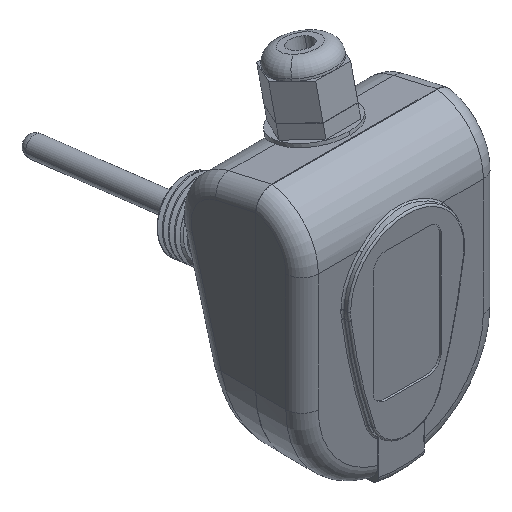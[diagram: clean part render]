
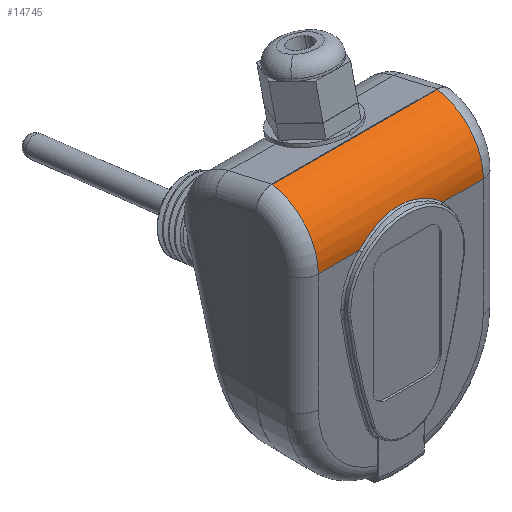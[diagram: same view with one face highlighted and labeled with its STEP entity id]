
A CAD part, isometric view. The second image highlights one B-rep face of the part: STEP entity #14745.
In plain terms, the highlighted cylindrical face has radius 17 mm (diameter 34 mm), a partial arc.
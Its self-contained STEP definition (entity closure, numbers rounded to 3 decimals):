
#89 = CARTESIAN_POINT ( 'NONE',  ( 14.3, 16.784, -17.554 ) ) ;
#446 = ORIENTED_EDGE ( 'NONE', *, *, #18467, .T. ) ;
#483 = CARTESIAN_POINT ( 'NONE',  ( 14.3, 16.784, -43.446 ) ) ;
#563 = CARTESIAN_POINT ( 'NONE',  ( 13.64, 12.092, -26.382 ) ) ;
#582 = EDGE_CURVE ( 'NONE', #5280, #9291, #20996, .T. ) ;
#1070 = DIRECTION ( 'NONE',  ( -1., 0., 0. ) ) ;
#1155 = VERTEX_POINT ( 'NONE', #15102 ) ;
#1531 = LINE ( 'NONE', #18896, #16276 ) ;
#2049 = FACE_OUTER_BOUND ( 'NONE', #21844, .T. ) ;
#2271 = CARTESIAN_POINT ( 'NONE',  ( 14.069, 13.981, -39.629 ) ) ;
#2339 = CARTESIAN_POINT ( 'NONE',  ( 13.768, 12.561, -24.656 ) ) ;
#2836 = DIRECTION ( 'NONE',  ( 0., 0., -1. ) ) ;
#2978 = CARTESIAN_POINT ( 'NONE',  ( 0., 0., -56. ) ) ;
#3662 = VECTOR ( 'NONE', #21067, 1000. ) ;
#3668 = EDGE_CURVE ( 'NONE', #10227, #15513, #9456, .T. ) ;
#4042 = CARTESIAN_POINT ( 'NONE',  ( 13.918, 13.193, -38.022 ) ) ;
#4114 = CARTESIAN_POINT ( 'NONE',  ( 13.916, 13.186, -22.996 ) ) ;
#4219 = LINE ( 'NONE', #8318, #3662 ) ;
#4723 = CIRCLE ( 'NONE', #21361, 17. ) ;
#4782 = CARTESIAN_POINT ( 'NONE',  ( -2.7, 16.784, 0. ) ) ;
#5280 = VERTEX_POINT ( 'NONE', #14515 ) ;
#5846 = CARTESIAN_POINT ( 'NONE',  ( 13.675, 12.21, -35.23 ) ) ;
#5928 = CARTESIAN_POINT ( 'NONE',  ( 14.067, 13.966, -21.398 ) ) ;
#6262 = CARTESIAN_POINT ( 'NONE',  ( -2.7, 16.784, -5. ) ) ;
#6581 = AXIS2_PLACEMENT_3D ( 'NONE', #4782, #2836, #1070 ) ;
#6963 = DIRECTION ( 'NONE',  ( 0., 0., 1. ) ) ;
#7603 = CARTESIAN_POINT ( 'NONE',  ( 13.55, 11.792, -32.887 ) ) ;
#7675 = CARTESIAN_POINT ( 'NONE',  ( 14.241, 15.223, -19.365 ) ) ;
#8023 = DIRECTION ( 'NONE',  ( -1., 0., 0. ) ) ;
#8082 = VECTOR ( 'NONE', #11872, 1000. ) ;
#8163 = DIRECTION ( 'NONE',  ( 0., 0., -1. ) ) ;
#8318 = CARTESIAN_POINT ( 'NONE',  ( 14.3, 16.784, -61. ) ) ;
#8610 = ORIENTED_EDGE ( 'NONE', *, *, #13952, .F. ) ;
#9210 = EDGE_CURVE ( 'NONE', #9291, #21954, #13941, .T. ) ;
#9291 = VERTEX_POINT ( 'NONE', #10309 ) ;
#9311 = CARTESIAN_POINT ( 'NONE',  ( 14.3, 15.955, -42.574 ) ) ;
#9381 = CARTESIAN_POINT ( 'NONE',  ( 13.507, 11.651, -31.1 ) ) ;
#9456 = B_SPLINE_CURVE_WITH_KNOTS ( 'NONE', 3,
 ( #483, #9311, #21841, #12894, #2271, #14695, #4042, #16532, #5846, #18346, #7603, #20194, #9381, #21990, #11177, #563, #12964, #2339, #14783, #4114, #16606, #5928, #18418, #7675, #20270, #9460 ),
 .UNSPECIFIED., .F., .F.,
 ( 4, 2, 2, 2, 2, 2, 2, 2, 2, 2, 2, 2, 4 ),
 ( 0., 0.004, 0.005, 0.007, 0.011, 0.012, 0.014, 0.018, 0.02, 0.021, 0.023, 0.025, 0.028 ),
 .UNSPECIFIED. ) ;
#9460 = CARTESIAN_POINT ( 'NONE',  ( 14.3, 16.784, -17.554 ) ) ;
#10227 = VERTEX_POINT ( 'NONE', #14984 ) ;
#10309 = CARTESIAN_POINT ( 'NONE',  ( 0., 0., -5. ) ) ;
#11177 = CARTESIAN_POINT ( 'NONE',  ( 13.542, 11.76, -28.141 ) ) ;
#11669 = AXIS2_PLACEMENT_3D ( 'NONE', #6262, #18779, #8023 ) ;
#11872 = DIRECTION ( 'NONE',  ( 0., 0., -1. ) ) ;
#12894 = CARTESIAN_POINT ( 'NONE',  ( 14.117, 14.275, -40.143 ) ) ;
#12964 = CARTESIAN_POINT ( 'NONE',  ( 13.68, 12.232, -25.797 ) ) ;
#13941 = LINE ( 'NONE', #20885, #8082 ) ;
#13952 = EDGE_CURVE ( 'NONE', #5280, #15513, #1531, .T. ) ;
#14515 = CARTESIAN_POINT ( 'NONE',  ( 14.3, 16.784, -5. ) ) ;
#14695 = CARTESIAN_POINT ( 'NONE',  ( 13.97, 13.44, -38.569 ) ) ;
#14745 = ADVANCED_FACE ( 'NONE', ( #2049 ), #19961, .T. ) ;
#14783 = CARTESIAN_POINT ( 'NONE',  ( 13.816, 12.752, -24.096 ) ) ;
#14984 = CARTESIAN_POINT ( 'NONE',  ( 14.3, 16.784, -43.446 ) ) ;
#15102 = CARTESIAN_POINT ( 'NONE',  ( 14.3, 16.784, -56. ) ) ;
#15513 = VERTEX_POINT ( 'NONE', #89 ) ;
#15910 = ORIENTED_EDGE ( 'NONE', *, *, #9210, .T. ) ;
#16029 = EDGE_CURVE ( 'NONE', #10227, #1155, #4219, .T. ) ;
#16276 = VECTOR ( 'NONE', #8163, 1000. ) ;
#16532 = CARTESIAN_POINT ( 'NONE',  ( 13.767, 12.539, -36.365 ) ) ;
#16606 = CARTESIAN_POINT ( 'NONE',  ( 13.968, 13.428, -22.457 ) ) ;
#17503 = ORIENTED_EDGE ( 'NONE', *, *, #16029, .F. ) ;
#17683 = CARTESIAN_POINT ( 'NONE',  ( -2.7, 16.784, -56. ) ) ;
#18346 = CARTESIAN_POINT ( 'NONE',  ( 13.577, 11.876, -33.48 ) ) ;
#18418 = CARTESIAN_POINT ( 'NONE',  ( 14.115, 14.263, -20.877 ) ) ;
#18467 = EDGE_CURVE ( 'NONE', #21954, #1155, #4723, .T. ) ;
#18532 = ORIENTED_EDGE ( 'NONE', *, *, #582, .T. ) ;
#18779 = DIRECTION ( 'NONE',  ( 0., 0., -1. ) ) ;
#18896 = CARTESIAN_POINT ( 'NONE',  ( 14.3, 16.784, -61. ) ) ;
#19488 = DIRECTION ( 'NONE',  ( 1., 0., 0. ) ) ;
#19961 = CYLINDRICAL_SURFACE ( 'NONE', #6581, 17. ) ;
#20194 = CARTESIAN_POINT ( 'NONE',  ( 13.515, 11.679, -31.694 ) ) ;
#20270 = CARTESIAN_POINT ( 'NONE',  ( 14.3, 15.956, -18.425 ) ) ;
#20885 = CARTESIAN_POINT ( 'NONE',  ( 0., 0., 0. ) ) ;
#20996 = CIRCLE ( 'NONE', #11669, 17. ) ;
#21067 = DIRECTION ( 'NONE',  ( 0., 0., -1. ) ) ;
#21361 = AXIS2_PLACEMENT_3D ( 'NONE', #17683, #6963, #19488 ) ;
#21841 = CARTESIAN_POINT ( 'NONE',  ( 14.241, 15.227, -41.639 ) ) ;
#21844 = EDGE_LOOP ( 'NONE', ( #17503, #22138, #8610, #18532, #15910, #446 ) ) ;
#21954 = VERTEX_POINT ( 'NONE', #2978 ) ;
#21990 = CARTESIAN_POINT ( 'NONE',  ( 13.506, 11.651, -29.321 ) ) ;
#22138 = ORIENTED_EDGE ( 'NONE', *, *, #3668, .T. ) ;
